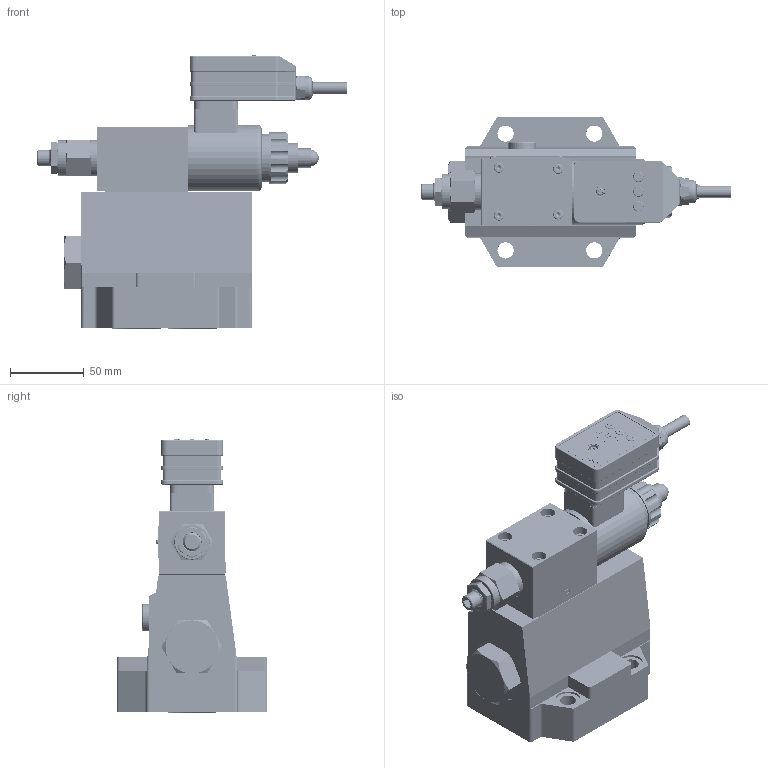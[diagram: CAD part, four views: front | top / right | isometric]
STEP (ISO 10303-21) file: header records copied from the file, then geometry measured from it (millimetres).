
FILE_DESCRIPTION(/* description */ (''),/* implementation_level */ '2;1');
FILE_NAME(/* name */ 'DREME20-6XJ.stp',/* time_stamp */ '2024-07-09T09:56:42+08:00',/* author */ (''),/* organization */ (''),/* preprocessor_version */ 'ST-DEVELOPER v16.7',/* originating_system */ 'SIEMENS PLM Software NX 12.0',/* authorisation */ '');
FILE_SCHEMA (('AUTOMOTIVE_DESIGN { 1 0 10303 214 3 1 1 1 }'));
Products named in the file (1): DREME20-6XJ
Bounding box: 210.09 x 102 x 185.83 mm (x, y, z)
Volume: 918172.8 mm3; surface area: 205615.3 mm2
Topology: 52 solids, 62 shells, 2773 faces, 6995 edges, 4524 vertices
Faces by surface type: plane 1289, cylinder 947, cone 216, torus 123, extrusion 99, bspline 88, sphere 11
Full cylindrical faces by diameter (mm): 1 x2, 1.5 x2, 1.6 x1, 1.9 x2, 2 x2, 2.5 x2, 3.3 x10, 4 x138, 4.2 x4, 4.8 x1, 5 x1, 5.6 x1, 6.7 x1, 6.78 x4, 7 x1, 7.49 x1, 7.5 x1, 7.54 x1, 10 x2, 10.6 x1, 11 x8, 11.093 x1, 11.1 x1, 11.2 x2, 12 x1, 13 x2, 14.8 x2, 16 x1, 16.2 x2, 16.5 x4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
Entity records: 162396 total; most frequent: CARTESIAN_POINT 96980, ORIENTED_EDGE 12558, DIRECTION 11950, EDGE_CURVE 6279, AXIS2_PLACEMENT_3D 4251, VERTEX_POINT 4176, VECTOR 3448, LINE 3349
